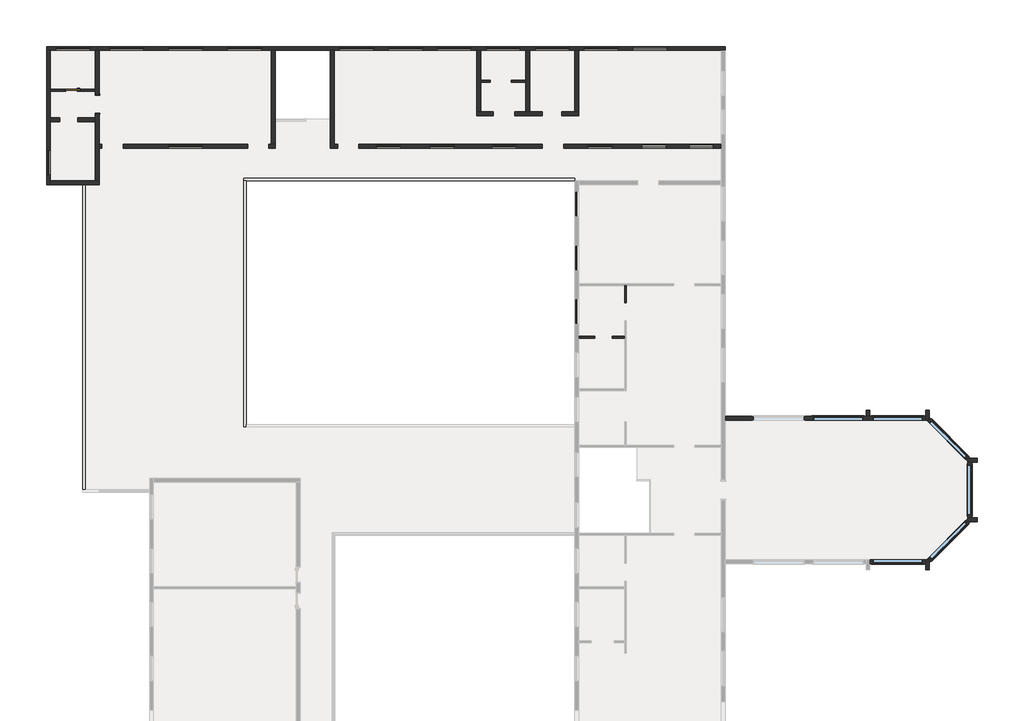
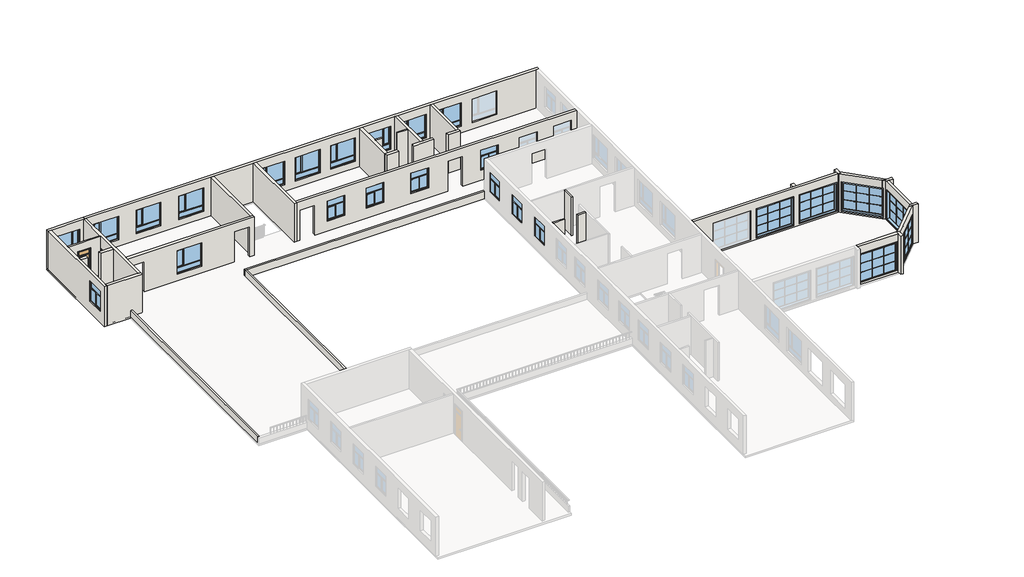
# One storey, part 2 of 4: 36 walls, 25 windows, 2 doors.
"""IFC4 building model written with IfcOpenShell, lengths in millimetres."""

from ifc_helpers import new_model, si_unit, frame, origin, place, context, project, spatial, polyline, outline, extrude, faceted_brep, transform, mapped, element, save
from components import door_b620a7e4, m1_00d12191, c1_07d47191, c2_05897f81, c2_cc7e28b3, c3_245fb3e4, c3_0cb914d8

model = new_model("IFC4")

# Units and contexts
model_context = context("Model", 3, world=origin())
ifc_project = project(units=[si_unit("LENGTHUNIT", "METRE", prefix="MILLI")], contexts=[model_context])

# Site, building, storey
site = spatial("IfcSite", under=ifc_project)
building = spatial("IfcBuilding", under=site)
storey = spatial("IfcBuildingStorey", under=building, Name="二层", Elevation=3600.0)

# Doors
placement = place(None, origin())
door_shape = door_b620a7e4(model_context)
element("IfcDoor", 1, ObjectType="门洞 : MD2(洞口）", at=placement, inside=storey, context=model_context, shape_type="MappedRepresentation", body=[
    mapped(door_shape, transform((-32270.2831392, 15166.2161615, 3600.0), x_axis=(0.0, -1.0, 0.0), y_axis=(1.0, 0.0, 0.0), z_axis=(0.0, 0.0, 1.0))),
])
m1_shape = m1_00d12191(model_context)
element("IfcDoor", 2, ObjectType="单嵌板木门 13 : M1", at=placement, inside=storey, context=model_context, shape_type="MappedRepresentation", body=[
    mapped(m1_shape, transform((-33770.2831392, 16016.2161615, 3600.0), x_axis=(-1.0, 0.0, 0.0), y_axis=(0.0, -1.0, 0.0), z_axis=(0.0, 0.0, 1.0))),
])

# Walls
element("IfcWall", 3, ObjectType="墙", at=placement, inside=storey, context=model_context, shape_type="Brep", body=[
    faceted_brep([(-32270.2831392, 18456.2161615, 3600.0), (-32150.2831392, 18456.2161615, 3600.0), (-21590.2831392, 18456.2161615, 3600.0), (-21350.2831392, 18456.2161615, 3600.0), (-17990.2831392, 18456.2161615, 3600.0), (-17750.2831392, 18456.2161615, 3600.0), (-8990.2831392, 18456.2161615, 3600.0), (-8750.2831392, 18456.2161615, 3600.0), (-5990.2831392, 18456.2161615, 3600.0), (-5750.2831392, 18456.2161615, 3600.0), (-2990.2831392, 18456.2161615, 3600.0), (-2750.2831392, 18456.2161615, 3600.0), (6009.7168608, 18456.2161615, 3600.0), (6249.7168608, 18456.2161615, 3600.0), (6249.7168608, 18456.2161615, 7050.0), (6009.7168608, 18456.2161615, 7050.0), (-17750.2831392, 18456.2161615, 7050.0), (-17990.2831392, 18456.2161615, 7050.0), (-32270.2831392, 18456.2161615, 7050.0), (-31520.2831392, 18456.2161615, 4200.0), (-31520.2831392, 18456.2161615, 6300.0), (-29420.2831392, 18456.2161615, 6300.0), (-29420.2831392, 18456.2161615, 4200.0), (-27920.2831392, 18456.2161615, 4200.0), (-27920.2831392, 18456.2161615, 6300.0), (-25820.2831392, 18456.2161615, 6300.0), (-25820.2831392, 18456.2161615, 4200.0), (-24290.2831392, 18456.2161615, 4200.0), (-24290.2831392, 18456.2161615, 6300.0), (-22190.2831392, 18456.2161615, 6300.0), (-22190.2831392, 18456.2161615, 4200.0), (-17420.2831392, 18456.2161615, 4200.0), (-17420.2831392, 18456.2161615, 6300.0), (-15320.2831392, 18456.2161615, 6300.0), (-15320.2831392, 18456.2161615, 4200.0), (-14420.2831392, 18456.2161615, 4200.0), (-14420.2831392, 18456.2161615, 6300.0), (-12320.2831392, 18456.2161615, 6300.0), (-12320.2831392, 18456.2161615, 4200.0), (-11420.2831392, 18456.2161615, 4200.0), (-11420.2831392, 18456.2161615, 6300.0), (-9320.2831392, 18456.2161615, 6300.0), (-9320.2831392, 18456.2161615, 4200.0), (-6320.2831392, 18456.2161615, 6300.0), (-6320.2831392, 18456.2161615, 4200.0), (-8420.2831392, 18456.2161615, 4200.0), (-8420.2831392, 18456.2161615, 6300.0), (-5420.2831392, 18456.2161615, 4200.0), (-5420.2831392, 18456.2161615, 6300.0), (-3320.2831392, 18456.2161615, 6300.0), (-3320.2831392, 18456.2161615, 4200.0), (-2420.2831392, 18456.2161615, 4200.0), (-2420.2831392, 18456.2161615, 6300.0), (-320.2831392, 18456.2161615, 6300.0), (-320.2831392, 18456.2161615, 4200.0), (579.7168608, 18456.2161615, 4200.0), (579.7168608, 18456.2161615, 6300.0), (2679.7168608, 18456.2161615, 6300.0), (2679.7168608, 18456.2161615, 4200.0), (6249.7168608, 18696.2161615, 3600.0), (-32270.2831392, 18696.2161615, 3600.0), (-32270.2831392, 18696.2161615, 7050.0), (6249.7168608, 18696.2161615, 7050.0), (-31520.2831392, 18696.2161615, 6300.0), (-31520.2831392, 18696.2161615, 4200.0), (-29420.2831392, 18696.2161615, 4200.0), (-29420.2831392, 18696.2161615, 6300.0), (-27920.2831392, 18696.2161615, 6300.0), (-27920.2831392, 18696.2161615, 4200.0), (-25820.2831392, 18696.2161615, 4200.0), (-25820.2831392, 18696.2161615, 6300.0), (-24290.2831392, 18696.2161615, 6300.0), (-24290.2831392, 18696.2161615, 4200.0), (-22190.2831392, 18696.2161615, 4200.0), (-22190.2831392, 18696.2161615, 6300.0), (-17420.2831392, 18696.2161615, 6300.0), (-17420.2831392, 18696.2161615, 4200.0), (-15320.2831392, 18696.2161615, 4200.0), (-15320.2831392, 18696.2161615, 6300.0), (-14420.2831392, 18696.2161615, 6300.0), (-14420.2831392, 18696.2161615, 4200.0), (-12320.2831392, 18696.2161615, 4200.0), (-12320.2831392, 18696.2161615, 6300.0), (-11420.2831392, 18696.2161615, 6300.0), (-11420.2831392, 18696.2161615, 4200.0), (-9320.2831392, 18696.2161615, 4200.0), (-9320.2831392, 18696.2161615, 6300.0), (-6320.2831392, 18696.2161615, 4200.0), (-6320.2831392, 18696.2161615, 6300.0), (-8420.2831392, 18696.2161615, 6300.0), (-8420.2831392, 18696.2161615, 4200.0), (-5420.2831392, 18696.2161615, 6300.0), (-5420.2831392, 18696.2161615, 4200.0), (-3320.2831392, 18696.2161615, 4200.0), (-3320.2831392, 18696.2161615, 6300.0), (-2420.2831392, 18696.2161615, 6300.0), (-2420.2831392, 18696.2161615, 4200.0), (-320.2831392, 18696.2161615, 4200.0), (-320.2831392, 18696.2161615, 6300.0), (579.7168608, 18696.2161615, 6300.0), (579.7168608, 18696.2161615, 4200.0), (2679.7168608, 18696.2161615, 4200.0), (2679.7168608, 18696.2161615, 6300.0)], [[[0, 1, 2, 3, 4, 5, 6, 7, 8, 9, 10, 11, 12, 13, 14, 15, 16, 17, 18], [19, 20, 21, 22], [23, 24, 25, 26], [27, 28, 29, 30], [31, 32, 33, 34], [35, 36, 37, 38], [39, 40, 41, 42], [43, 44, 45, 46], [47, 48, 49, 50], [51, 52, 53, 54], [55, 56, 57, 58]], [[59, 60, 61, 62], [63, 64, 65, 66], [67, 68, 69, 70], [71, 72, 73, 74], [75, 76, 77, 78], [79, 80, 81, 82], [83, 84, 85, 86], [87, 88, 89, 90], [91, 92, 93, 94], [95, 96, 97, 98], [99, 100, 101, 102]], [[13, 12, 11, 10, 9, 8, 7, 6, 5, 4, 3, 2, 1, 0, 60, 59]], [[60, 0, 18, 61]], [[20, 19, 64, 63]], [[21, 20, 63, 66]], [[22, 21, 66, 65]], [[19, 22, 65, 64]], [[24, 23, 68, 67]], [[25, 24, 67, 70]], [[26, 25, 70, 69]], [[23, 26, 69, 68]], [[28, 27, 72, 71]], [[29, 28, 71, 74]], [[30, 29, 74, 73]], [[27, 30, 73, 72]], [[32, 31, 76, 75]], [[33, 32, 75, 78]], [[34, 33, 78, 77]], [[31, 34, 77, 76]], [[36, 35, 80, 79]], [[37, 36, 79, 82]], [[38, 37, 82, 81]], [[35, 38, 81, 80]], [[40, 39, 84, 83]], [[41, 40, 83, 86]], [[42, 41, 86, 85]], [[39, 42, 85, 84]], [[88, 87, 44, 43]], [[89, 88, 43, 46]], [[90, 89, 46, 45]], [[87, 90, 45, 44]], [[48, 47, 92, 91]], [[49, 48, 91, 94]], [[50, 49, 94, 93]], [[47, 50, 93, 92]], [[52, 51, 96, 95]], [[53, 52, 95, 98]], [[54, 53, 98, 97]], [[51, 54, 97, 96]], [[56, 55, 100, 99]], [[57, 56, 99, 102]], [[58, 57, 102, 101]], [[55, 58, 101, 100]], [[13, 59, 62, 14]], [[18, 17, 16, 15, 14, 62, 61]]]),
])
element("IfcWall", 4, ObjectType="墙", at=placement, inside=storey, context=model_context, shape_type="Brep", body=[
    faceted_brep([(18541.7168608, -4223.7838385, 3600.0), (18541.7168608, -4223.7838385, 7050.0), (6249.7168608, -4223.7838385, 7050.0), (6249.7168608, -4223.7838385, 3600.0), (15057.4224883, -4223.7838385, 3600.0), (18374.7168608, -4223.7838385, 6300.0), (18374.7168608, -4223.7838385, 3800.0), (15294.7168608, -4223.7838385, 3800.0), (15294.7168608, -4223.7838385, 6300.0), (14720.7168608, -4223.7838385, 6300.0), (14720.7168608, -4223.7838385, 3800.0), (11640.7168608, -4223.7838385, 3800.0), (11640.7168608, -4223.7838385, 6300.0), (11066.7168608, -4223.7838385, 3800.0), (7986.7168608, -4223.7838385, 3800.0), (7986.7168608, -4223.7838385, 6300.0), (11066.7168608, -4223.7838385, 6300.0), (18541.7168608, -3983.7838385, 3450.0), (15127.7168608, -3983.7838385, 3450.0), (14887.7168608, -3983.7838385, 3450.0), (6249.7168608, -3983.7838385, 3450.0), (6249.7168608, -3983.7838385, 7050.0), (14887.7168608, -3983.7838385, 7050.0), (15127.7168608, -3983.7838385, 7050.0), (18541.7168608, -3983.7838385, 7050.0), (18541.7168608, -3983.7838385, 3600.0), (18374.7168608, -3983.7838385, 3800.0), (18374.7168608, -3983.7838385, 6300.0), (15294.7168608, -3983.7838385, 6300.0), (15294.7168608, -3983.7838385, 3800.0), (14720.7168608, -3983.7838385, 3800.0), (14720.7168608, -3983.7838385, 6300.0), (11640.7168608, -3983.7838385, 6300.0), (11640.7168608, -3983.7838385, 3800.0), (7986.7168608, -3983.7838385, 3800.0), (11066.7168608, -3983.7838385, 3800.0), (11066.7168608, -3983.7838385, 6300.0), (7986.7168608, -3983.7838385, 6300.0), (18541.7168608, -3988.7838385, 3450.0), (6249.7168608, -3988.7838385, 3450.0), (18541.7168608, -3988.7838385, 3600.0), (18541.7168608, -4153.4894659, 3600.0), (6249.7168608, -3988.7838385, 3600.0)], [[[0, 1, 2, 3, 4], [5, 6, 7, 8], [9, 10, 11, 12], [13, 14, 15, 16]], [[17, 18, 19, 20, 21, 22, 23, 24, 25], [26, 27, 28, 29], [30, 31, 32, 33], [34, 35, 36, 37]], [[20, 19, 18, 17, 38, 39]], [[6, 5, 27, 26]], [[7, 6, 26, 29]], [[8, 7, 29, 28]], [[5, 8, 28, 27]], [[17, 25, 40, 38]], [[1, 0, 41, 40, 25, 24]], [[10, 9, 31, 30]], [[11, 10, 30, 33]], [[12, 11, 33, 32]], [[9, 12, 32, 31]], [[16, 36, 35, 13]], [[13, 35, 34, 14]], [[14, 34, 37, 15]], [[36, 16, 15, 37]], [[21, 20, 39, 42, 3, 2]], [[2, 1, 24, 23, 22, 21]], [[42, 40, 41, 0, 4, 3]], [[40, 42, 39, 38]]]),
])
element("IfcWall", 5, ObjectType="墙", at=placement, inside=storey, context=model_context, shape_type="Brep", body=[
    faceted_brep([(18612.0112333, -4223.7838385, 3600.0), (20955.0112333, -6566.7838385, 3600.0), (20955.0112333, -6566.7838385, 3800.0), (18779.0355148, -4390.8081199, 3800.0), (18779.0355148, -4390.8081199, 6300.0), (20955.0112333, -6566.7838385, 6300.0), (20955.0112333, -6566.7838385, 7050.0), (18612.0112333, -4223.7838385, 7050.0), (21294.4224883, -6566.7838385, 3600.0), (18781.7168608, -4054.078211, 3600.0), (18781.7168608, -4054.078211, 7050.0), (21294.4224883, -6566.7838385, 7050.0), (18948.7411423, -4221.1024925, 6300.0), (18948.7411423, -4221.1024925, 3800.0), (21126.6300284, -6398.9913785, 3800.0), (21126.6300284, -6398.9913785, 6300.0), (18781.7168608, -4223.7838385, 3600.0), (20958.8375684, -6566.7838385, 6300.0), (20958.8375684, -6566.7838385, 3800.0), (18781.7168608, -4223.7838385, 7050.0)], [[[0, 1, 2, 3, 4, 5, 6, 7]], [[8, 9, 10, 11], [12, 13, 14, 15]], [[1, 0, 16, 9, 8]], [[1, 8, 11, 6, 5, 17, 18, 2]], [[12, 4, 3, 13]], [[13, 3, 2, 18, 14]], [[14, 18, 17, 15]], [[4, 12, 15, 17, 5]], [[9, 16, 19, 10]], [[16, 0, 7, 19]], [[7, 6, 11, 10, 19]]]),
])
element("IfcWall", 6, ObjectType="墙", at=placement, inside=storey, context=model_context, shape_type="Brep", body=[
    faceted_brep([(21195.0112333, -6806.7838385, 3600.0), (21364.7168608, -6806.7838385, 3600.0), (21724.7168608, -6806.7838385, 3600.0), (21724.7168608, -6806.7838385, 7050.0), (21364.7168608, -6806.7838385, 7050.0), (21195.0112333, -6806.7838385, 7050.0), (21724.7168608, -6566.7838385, 3600.0), (21294.4224883, -6566.7838385, 3600.0), (20955.0112333, -6566.7838385, 3600.0), (20955.0112333, -6566.7838385, 3800.0), (20958.8375684, -6566.7838385, 3800.0), (20958.8375684, -6566.7838385, 6300.0), (20955.0112333, -6566.7838385, 6300.0), (20955.0112333, -6566.7838385, 7050.0), (21294.4224883, -6566.7838385, 7050.0), (21724.7168608, -6566.7838385, 7050.0), (21124.7168608, -6736.4894659, 3600.0), (21124.7168608, -6736.4894659, 7050.0), (20956.9244009, -6568.697006, 6300.0), (20956.9244009, -6568.697006, 3800.0)], [[[0, 1, 2, 3, 4, 5]], [[6, 7, 8, 9, 10, 11, 12, 13, 14, 15]], [[2, 1, 0, 16, 8, 7, 6]], [[2, 6, 15, 3]], [[8, 16, 0, 5, 17, 13, 12, 18, 19, 9]], [[19, 10, 9]], [[10, 19, 18, 11]], [[11, 18, 12]], [[5, 4, 3, 15, 14, 13, 17]]]),
])
element("IfcWall", 7, ObjectType="墙", at=placement, inside=storey, context=model_context, shape_type="SweptSolid", body=[
    extrude(outline(polyline([(15127.7168608, -3623.7838385), (15127.7168608, -3983.7838385), (14887.7168608, -3983.7838385), (14887.7168608, -3623.7838385), (15127.7168608, -3623.7838385)])), frame((0.0, 0.0, 3600.0), z_axis=(0.0, 0.0, 1.0), x_axis=(1.0, 0.0, 0.0)), (0.0, 0.0, 1.0), 3450.0),
])
element("IfcWall", 8, ObjectType="墙", at=placement, inside=storey, context=model_context, shape_type="Brep", body=[
    faceted_brep([(18781.7168608, -4223.7838385, 3600.0), (18781.7168608, -4054.078211, 3600.0), (18781.7168608, -3623.7838385, 3600.0), (18781.7168608, -3623.7838385, 7050.0), (18781.7168608, -4223.7838385, 7050.0), (18541.7168608, -3623.7838385, 3600.0), (18541.7168608, -4153.4894659, 3600.0), (18541.7168608, -4223.7838385, 3600.0), (18541.7168608, -4223.7838385, 7050.0), (18541.7168608, -3983.7838385, 7050.0), (18541.7168608, -3623.7838385, 7050.0), (18612.0112333, -4223.7838385, 3600.0)], [[[0, 1, 2, 3, 4]], [[5, 6, 7, 8, 9, 10]], [[2, 1, 0, 11, 7, 6, 5]], [[2, 5, 10, 3]], [[7, 11, 0, 4, 8]], [[4, 3, 10, 9, 8]]]),
])
element("IfcWall", 9, ObjectType="墙", at=placement, inside=storey, context=model_context, shape_type="Brep", body=[
    faceted_brep([(15127.7168608, -13043.7838385, 3600.0), (18541.7168608, -13043.7838385, 3600.0), (18541.7168608, -13043.7838385, 7050.0), (15127.7168608, -13043.7838385, 7050.0), (18374.7168608, -13043.7838385, 6300.0), (18374.7168608, -13043.7838385, 3800.0), (15294.7168608, -13043.7838385, 3800.0), (15294.7168608, -13043.7838385, 6300.0), (18541.7168608, -12803.7838385, 3600.0), (15127.7168608, -12803.7838385, 3600.0), (15127.7168608, -12803.7838385, 7050.0), (18541.7168608, -12803.7838385, 7050.0), (18374.7168608, -12803.7838385, 3800.0), (18374.7168608, -12803.7838385, 6300.0), (15294.7168608, -12803.7838385, 6300.0), (15294.7168608, -12803.7838385, 3800.0), (15127.7168608, -12874.078211, 3600.0)], [[[0, 1, 2, 3], [4, 5, 6, 7]], [[8, 9, 10, 11], [12, 13, 14, 15]], [[1, 0, 16, 9, 8]], [[5, 4, 13, 12]], [[6, 5, 12, 15]], [[7, 6, 15, 14]], [[4, 7, 14, 13]], [[9, 16, 0, 3, 10]], [[1, 8, 11, 2]], [[3, 2, 11, 10]]]),
])
element("IfcWall", 10, ObjectType="墙", at=placement, inside=storey, context=model_context, shape_type="Brep", body=[
    faceted_brep([(18781.7168608, -12973.4894659, 3600.0), (21294.4224883, -10460.7838385, 3600.0), (21294.4224883, -10460.7838385, 7050.0), (18781.7168608, -12973.4894659, 7050.0), (18948.7411423, -12806.4651844, 3800.0), (18948.7411423, -12806.4651844, 6300.0), (21126.6300284, -10628.5762984, 6300.0), (21126.6300284, -10628.5762984, 3800.0), (20955.0112333, -10460.7838385, 3600.0), (18612.0112333, -12803.7838385, 3600.0), (18612.0112333, -12803.7838385, 7050.0), (20955.0112333, -10460.7838385, 7050.0), (20955.0112333, -10460.7838385, 6300.0), (18779.0355148, -12636.759557, 6300.0), (18779.0355148, -12636.759557, 3800.0), (20955.0112333, -10460.7838385, 3800.0), (18781.7168608, -12803.7838385, 3600.0), (20958.8375684, -10460.7838385, 3800.0), (20958.8375684, -10460.7838385, 6300.0), (18781.7168608, -12803.7838385, 7050.0)], [[[0, 1, 2, 3], [4, 5, 6, 7]], [[8, 9, 10, 11, 12, 13, 14, 15]], [[1, 0, 16, 9, 8]], [[1, 8, 15, 17, 18, 12, 11, 2]], [[13, 5, 4, 14]], [[14, 4, 7, 17, 15]], [[17, 7, 6, 18]], [[5, 13, 12, 18, 6]], [[9, 16, 19, 10]], [[16, 0, 3, 19]], [[3, 2, 11, 10, 19]]]),
])
element("IfcWall", 11, ObjectType="墙", at=placement, inside=storey, context=model_context, shape_type="Brep", body=[
    faceted_brep([(20955.0112333, -10460.7838385, 3600.0), (21294.4224883, -10460.7838385, 3600.0), (21724.7168608, -10460.7838385, 3600.0), (21724.7168608, -10460.7838385, 7050.0), (21294.4224883, -10460.7838385, 7050.0), (20955.0112333, -10460.7838385, 7050.0), (20955.0112333, -10460.7838385, 6300.0), (20958.8375684, -10460.7838385, 6300.0), (20958.8375684, -10460.7838385, 3800.0), (20955.0112333, -10460.7838385, 3800.0), (21724.7168608, -10220.7838385, 3600.0), (21364.7168608, -10220.7838385, 3600.0), (21195.0112333, -10220.7838385, 3600.0), (21195.0112333, -10220.7838385, 7050.0), (21364.7168608, -10220.7838385, 7050.0), (21724.7168608, -10220.7838385, 7050.0), (21124.7168608, -10291.078211, 3600.0), (20956.9244009, -10458.8706709, 3800.0), (20956.9244009, -10458.8706709, 6300.0), (21124.7168608, -10291.078211, 7050.0)], [[[0, 1, 2, 3, 4, 5, 6, 7, 8, 9]], [[10, 11, 12, 13, 14, 15]], [[2, 1, 0, 16, 12, 11, 10]], [[2, 10, 15, 3]], [[12, 16, 0, 9, 17, 18, 6, 5, 19, 13]], [[8, 17, 9]], [[17, 8, 7, 18]], [[18, 7, 6]], [[5, 4, 3, 15, 14, 13, 19]]]),
])
element("IfcWall", 12, ObjectType="墙", at=placement, inside=storey, context=model_context, shape_type="Brep", body=[
    faceted_brep([(18541.7168608, -12803.7838385, 3600.0), (18541.7168608, -13043.7838385, 3600.0), (18541.7168608, -13403.7838385, 3600.0), (18541.7168608, -13403.7838385, 7050.0), (18541.7168608, -13043.7838385, 7050.0), (18541.7168608, -12803.7838385, 7050.0), (18781.7168608, -13403.7838385, 3600.0), (18781.7168608, -12973.4894659, 3600.0), (18781.7168608, -12803.7838385, 3600.0), (18781.7168608, -12803.7838385, 7050.0), (18781.7168608, -12973.4894659, 7050.0), (18781.7168608, -13403.7838385, 7050.0), (18612.0112333, -12803.7838385, 3600.0), (18612.0112333, -12803.7838385, 7050.0)], [[[0, 1, 2, 3, 4, 5]], [[6, 7, 8, 9, 10, 11]], [[2, 1, 0, 12, 8, 7, 6]], [[2, 6, 11, 3]], [[8, 12, 0, 5, 13, 9]], [[5, 4, 3, 11, 10, 9, 13]]]),
])
element("IfcWall", 13, ObjectType="墙", at=placement, inside=storey, context=model_context, shape_type="Brep", body=[
    faceted_brep([(21124.7168608, -6736.4894659, 3600.0), (21124.7168608, -10291.078211, 3600.0), (21124.7168608, -10291.078211, 7050.0), (21124.7168608, -6736.4894659, 7050.0), (21124.7168608, -10053.7838385, 6300.0), (21124.7168608, -10053.7838385, 3800.0), (21124.7168608, -6973.7838385, 3800.0), (21124.7168608, -6973.7838385, 6300.0), (21364.7168608, -10220.7838385, 3600.0), (21364.7168608, -6806.7838385, 3600.0), (21364.7168608, -6806.7838385, 7050.0), (21364.7168608, -10220.7838385, 7050.0), (21364.7168608, -10053.7838385, 3800.0), (21364.7168608, -10053.7838385, 6300.0), (21364.7168608, -6973.7838385, 6300.0), (21364.7168608, -6973.7838385, 3800.0), (21195.0112333, -6806.7838385, 3600.0), (21195.0112333, -10220.7838385, 3600.0), (21195.0112333, -6806.7838385, 7050.0), (21195.0112333, -10220.7838385, 7050.0)], [[[0, 1, 2, 3], [4, 5, 6, 7]], [[8, 9, 10, 11], [12, 13, 14, 15]], [[1, 0, 16, 9, 8, 17]], [[16, 0, 3, 18]], [[9, 16, 18, 10]], [[1, 17, 19, 2]], [[17, 8, 11, 19]], [[5, 4, 13, 12]], [[6, 5, 12, 15]], [[7, 6, 15, 14]], [[4, 7, 14, 13]], [[3, 2, 19, 11, 10, 18]]]),
])
element("IfcWall", 14, ObjectType="墙", at=placement, inside=storey, context=model_context, shape_type="Brep", body=[
    faceted_brep([(-21750.2831392, 12456.2161615, 3600.0), (-21350.2831392, 12456.2161615, 3600.0), (-21350.2831392, 12456.2161615, 7050.0), (-32150.2831392, 12456.2161615, 7050.0), (-32150.2831392, 12456.2161615, 3600.0), (-31990.2831392, 12456.2161615, 3600.0), (-31990.2831392, 12456.2161615, 6300.0), (-30690.2831392, 12456.2161615, 6300.0), (-30690.2831392, 12456.2161615, 3600.0), (-23140.2831392, 12456.2161615, 3600.0), (-23050.2831392, 12456.2161615, 3600.0), (-23050.2831392, 12456.2161615, 6300.0), (-21750.2831392, 12456.2161615, 6300.0), (-27920.2831392, 12456.2161615, 4200.0), (-27920.2831392, 12456.2161615, 6300.0), (-25820.2831392, 12456.2161615, 6300.0), (-25820.2831392, 12456.2161615, 4200.0), (-21350.2831392, 12696.2161615, 3600.0), (-21590.2831392, 12696.2161615, 3600.0), (-21750.2831392, 12696.2161615, 3600.0), (-21750.2831392, 12696.2161615, 6300.0), (-23050.2831392, 12696.2161615, 6300.0), (-23050.2831392, 12696.2161615, 3600.0), (-23140.2831392, 12696.2161615, 3600.0), (-30690.2831392, 12696.2161615, 3600.0), (-30690.2831392, 12696.2161615, 6300.0), (-31990.2831392, 12696.2161615, 6300.0), (-31990.2831392, 12696.2161615, 3600.0), (-32150.2831392, 12696.2161615, 3600.0), (-32150.2831392, 12696.2161615, 7050.0), (-21590.2831392, 12696.2161615, 7050.0), (-21350.2831392, 12696.2161615, 7050.0), (-27920.2831392, 12696.2161615, 6300.0), (-27920.2831392, 12696.2161615, 4200.0), (-25820.2831392, 12696.2161615, 4200.0), (-25820.2831392, 12696.2161615, 6300.0)], [[[0, 1, 2, 3, 4, 5, 6, 7, 8, 9, 10, 11, 12], [13, 14, 15, 16]], [[17, 18, 19, 20, 21, 22, 23, 24, 25, 26, 27, 28, 29, 30, 31], [32, 33, 34, 35]], [[22, 10, 9, 8, 24, 23]], [[17, 1, 0, 19, 18]], [[4, 28, 27, 5]], [[1, 17, 31, 2]], [[12, 20, 19, 0]], [[20, 12, 11, 21]], [[21, 11, 10, 22]], [[28, 4, 3, 29]], [[14, 13, 33, 32]], [[15, 14, 32, 35]], [[16, 15, 35, 34]], [[13, 16, 34, 33]], [[26, 6, 5, 27]], [[6, 26, 25, 7]], [[7, 25, 24, 8]], [[3, 2, 31, 30, 29]]]),
])
element("IfcWall", 15, ObjectType="墙", at=placement, inside=storey, context=model_context, shape_type="Brep", body=[
    faceted_brep([(-21590.2831392, 18456.2161615, 3600.0), (-21590.2831392, 12696.2161615, 3600.0), (-21590.2831392, 12696.2161615, 7050.0), (-21590.2831392, 18456.2161615, 7050.0), (-21350.2831392, 12696.2161615, 3600.0), (-21350.2831392, 14256.2161615, 3600.0), (-21350.2831392, 18456.2161615, 3600.0), (-21350.2831392, 18456.2161615, 7050.0), (-21350.2831392, 12696.2161615, 7050.0)], [[[0, 1, 2, 3]], [[4, 5, 6, 7, 8]], [[1, 0, 6, 5, 4]], [[6, 0, 3, 7]], [[1, 4, 8, 2]], [[3, 2, 8, 7]]]),
])
element("IfcWall", 16, ObjectType="墙", at=placement, inside=storey, context=model_context, shape_type="Brep", body=[
    faceted_brep([(-17990.2831392, 18456.2161615, 3600.0), (-17990.2831392, 12456.2161615, 3600.0), (-17990.2831392, 12456.2161615, 7050.0), (-17990.2831392, 18456.2161615, 7050.0), (-17750.2831392, 12456.2161615, 3600.0), (-17750.2831392, 12696.2161615, 3600.0), (-17750.2831392, 18456.2161615, 3600.0), (-17750.2831392, 18456.2161615, 7050.0), (-17750.2831392, 12456.2161615, 7050.0)], [[[0, 1, 2, 3]], [[4, 5, 6, 7, 8]], [[1, 0, 6, 5, 4]], [[6, 0, 3, 7]], [[1, 4, 8, 2]], [[3, 2, 8, 7]]]),
])
element("IfcWall", 17, ObjectType="墙", at=placement, inside=storey, context=model_context, shape_type="Brep", body=[
    faceted_brep([(-2750.2831392, 14696.2161615, 3600.0), (-2990.2831392, 14696.2161615, 3600.0), (-3770.2831392, 14696.2161615, 3600.0), (-3770.2831392, 14696.2161615, 7050.0), (-2990.2831392, 14696.2161615, 7050.0), (-2750.2831392, 14696.2161615, 7050.0), (-3770.2831392, 14456.2161615, 3600.0), (-2750.2831392, 14456.2161615, 3600.0), (-2750.2831392, 14456.2161615, 7050.0), (-3770.2831392, 14456.2161615, 7050.0)], [[[0, 1, 2, 3, 4, 5]], [[6, 7, 8, 9]], [[2, 1, 0, 7, 6]], [[2, 6, 9, 3]], [[7, 0, 5, 8]], [[5, 4, 3, 9, 8]]]),
])
element("IfcWall", 18, ObjectType="墙", at=placement, inside=storey, context=model_context, shape_type="Brep", body=[
    faceted_brep([(-8750.2831392, 14696.2161615, 3600.0), (-8750.2831392, 16516.2161615, 3600.0), (-8750.2831392, 16636.2161615, 3600.0), (-8750.2831392, 18456.2161615, 3600.0), (-8750.2831392, 18456.2161615, 7050.0), (-8750.2831392, 16636.2161615, 7050.0), (-8750.2831392, 16516.2161615, 7050.0), (-8750.2831392, 14696.2161615, 7050.0), (-8990.2831392, 18456.2161615, 3600.0), (-8990.2831392, 14696.2161615, 3600.0), (-8990.2831392, 14696.2161615, 7050.0), (-8990.2831392, 18456.2161615, 7050.0)], [[[0, 1, 2, 3, 4, 5, 6, 7]], [[8, 9, 10, 11]], [[3, 2, 1, 0, 9, 8]], [[3, 8, 11, 4]], [[9, 0, 7, 10]], [[7, 6, 5, 4, 11, 10]]]),
])
element("IfcWall", 19, ObjectType="墙", at=placement, inside=storey, context=model_context, shape_type="Brep", body=[
    faceted_brep([(-5750.2831392, 14696.2161615, 3600.0), (-5750.2831392, 18456.2161615, 3600.0), (-5750.2831392, 18456.2161615, 7050.0), (-5750.2831392, 14696.2161615, 7050.0), (-5990.2831392, 18456.2161615, 3600.0), (-5990.2831392, 16636.2161615, 3600.0), (-5990.2831392, 16516.2161615, 3600.0), (-5990.2831392, 14696.2161615, 3600.0), (-5990.2831392, 14696.2161615, 7050.0), (-5990.2831392, 18456.2161615, 7050.0)], [[[0, 1, 2, 3]], [[4, 5, 6, 7, 8, 9]], [[1, 0, 7, 6, 5, 4]], [[1, 4, 9, 2]], [[7, 0, 3, 8]], [[3, 2, 9, 8]]]),
])
element("IfcWall", 20, ObjectType="隔墙", at=placement, inside=storey, context=model_context, shape_type="SweptSolid", body=[
    extrude(outline(polyline([(-8170.2831392, 16516.2161615), (-8750.2831392, 16516.2161615), (-8750.2831392, 16636.2161615), (-8170.2831392, 16636.2161615), (-8170.2831392, 16516.2161615)])), frame((0.0, 0.0, 3600.0), z_axis=(0.0, 0.0, 1.0), x_axis=(1.0, 0.0, 0.0)), (0.0, 0.0, 1.0), 3450.0),
])
element("IfcWall", 21, ObjectType="隔墙", at=placement, inside=storey, context=model_context, shape_type="SweptSolid", body=[
    extrude(outline(polyline([(69.7168608, 2986.2161615), (69.7168608, 4026.2161615), (189.7168608, 4026.2161615), (189.7168608, 2986.2161615), (69.7168608, 2986.2161615)])), frame((0.0, 0.0, 3600.0), z_axis=(0.0, 0.0, 1.0), x_axis=(1.0, 0.0, 0.0)), (0.0, 0.0, 1.0), 3450.0),
])
element("IfcWall", 22, ObjectType="隔墙", at=placement, inside=storey, context=model_context, shape_type="SweptSolid", body=[
    extrude(outline(polyline([(-1770.2831392, 796.2161615), (-2750.2831392, 796.2161615), (-2750.2831392, 916.2161615), (-1770.2831392, 916.2161615), (-1770.2831392, 796.2161615)])), frame((0.0, 0.0, 3600.0), z_axis=(0.0, 0.0, 1.0), x_axis=(1.0, 0.0, 0.0)), (0.0, 0.0, 1.0), 3450.0),
])
element("IfcWall", 23, ObjectType="墙", at=placement, inside=storey, context=model_context, shape_type="SweptSolid", body=[
    extrude(outline(polyline([(3600.0, -3670.2831392), (3600.0, 6009.7168608), (7050.0, 6009.7168608), (7050.0, -17750.2831392), (3600.0, -17750.2831392), (3600.0, -17520.2831392), (6300.0, -17520.2831392), (6300.0, -16220.2831392), (3600.0, -16220.2831392), (3600.0, -4970.2831392), (6300.0, -4970.2831392), (6300.0, -3670.2831392), (3600.0, -3670.2831392)]), holes=[polyline([(4500.0, 5529.7168608), (4500.0, 4029.7168608), (6300.0, 4029.7168608), (6300.0, 5529.7168608), (4500.0, 5529.7168608)]), polyline([(4500.0, 2629.7168608), (4500.0, 1129.7168608), (6300.0, 1129.7168608), (6300.0, 2629.7168608), (4500.0, 2629.7168608)]), polyline([(4500.0, -670.2831392), (4500.0, -2170.2831392), (6300.0, -2170.2831392), (6300.0, -670.2831392), (4500.0, -670.2831392)]), polyline([(4500.0, -6570.2831392), (4500.0, -8070.2831392), (6300.0, -8070.2831392), (6300.0, -6570.2831392), (4500.0, -6570.2831392)]), polyline([(4500.0, -10370.2831392), (4500.0, -11870.2831392), (6300.0, -11870.2831392), (6300.0, -10370.2831392), (4500.0, -10370.2831392)]), polyline([(4500.0, -13670.2831392), (4500.0, -15170.2831392), (6300.0, -15170.2831392), (6300.0, -13670.2831392), (4500.0, -13670.2831392)])]), frame((0.0, 12456.2161615, 0.0), z_axis=(0.0, 1.0, 0.0), x_axis=(0.0, 0.0, 1.0)), (0.0, 0.0, 1.0), 240.0),
])
element("IfcWall", 24, ObjectType="隔墙", at=placement, inside=storey, context=model_context, shape_type="SweptSolid", body=[
    extrude(outline(polyline([(-5990.2831392, 16516.2161615), (-6870.2831392, 16516.2161615), (-6870.2831392, 16636.2161615), (-5990.2831392, 16636.2161615), (-5990.2831392, 16516.2161615)])), frame((0.0, 0.0, 3600.0), z_axis=(0.0, 0.0, 1.0), x_axis=(1.0, 0.0, 0.0)), (0.0, 0.0, 1.0), 3450.0),
])
element("IfcWall", 25, ObjectType="墙", at=placement, inside=storey, context=model_context, shape_type="Brep", body=[
    faceted_brep([(-7970.2831392, 14696.2161615, 3600.0), (-8750.2831392, 14696.2161615, 3600.0), (-8990.2831392, 14696.2161615, 3600.0), (-8990.2831392, 14696.2161615, 7050.0), (-8750.2831392, 14696.2161615, 7050.0), (-7970.2831392, 14696.2161615, 7050.0), (-8990.2831392, 14456.2161615, 3600.0), (-7970.2831392, 14456.2161615, 3600.0), (-7970.2831392, 14456.2161615, 7050.0), (-8990.2831392, 14456.2161615, 7050.0)], [[[0, 1, 2, 3, 4, 5]], [[6, 7, 8, 9]], [[2, 1, 0, 7, 6]], [[7, 0, 5, 8]], [[2, 6, 9, 3]], [[5, 4, 3, 9, 8]]]),
])
element("IfcWall", 26, ObjectType="墙", at=placement, inside=storey, context=model_context, shape_type="Brep", body=[
    faceted_brep([(-4970.2831392, 14696.2161615, 3600.0), (-5750.2831392, 14696.2161615, 3600.0), (-5990.2831392, 14696.2161615, 3600.0), (-6670.2831392, 14696.2161615, 3600.0), (-6670.2831392, 14696.2161615, 7050.0), (-4970.2831392, 14696.2161615, 7050.0), (-6670.2831392, 14456.2161615, 3600.0), (-4970.2831392, 14456.2161615, 3600.0), (-4970.2831392, 14456.2161615, 7050.0), (-6670.2831392, 14456.2161615, 7050.0)], [[[0, 1, 2, 3, 4, 5]], [[6, 7, 8, 9]], [[3, 2, 1, 0, 7, 6]], [[3, 6, 9, 4]], [[7, 0, 5, 8]], [[5, 4, 9, 8]]]),
])
element("IfcWall", 27, ObjectType="隔墙", at=placement, inside=storey, context=model_context, shape_type="SweptSolid", body=[
    extrude(outline(polyline([(69.7168608, 796.2161615), (-670.2831392, 796.2161615), (-670.2831392, 916.2161615), (69.7168608, 916.2161615), (69.7168608, 796.2161615)])), frame((0.0, 0.0, 3600.0), z_axis=(0.0, 0.0, 1.0), x_axis=(1.0, 0.0, 0.0)), (0.0, 0.0, 1.0), 3450.0),
])
element("IfcWall", 28, ObjectType="墙", at=placement, inside=storey, context=model_context, shape_type="SweptSolid", body=[
    extrude(outline(polyline([(-2750.2831392, 18456.2161615), (-2750.2831392, 14696.2161615), (-2990.2831392, 14696.2161615), (-2990.2831392, 18456.2161615), (-2750.2831392, 18456.2161615)])), frame((0.0, 0.0, 3600.0), z_axis=(0.0, 0.0, 1.0), x_axis=(1.0, 0.0, 0.0)), (0.0, 0.0, 1.0), 3450.0),
])
element("IfcWall", 29, ObjectType="墙", at=placement, inside=storey, context=model_context, shape_type="Brep", body=[
    faceted_brep([(-32390.2831392, 18696.2161615, 3450.0), (-35390.2831392, 18696.2161615, 3450.0), (-35390.2831392, 18696.2161615, 7050.0), (-32270.2831392, 18696.2161615, 7050.0), (-32270.2831392, 18696.2161615, 3600.0), (-32390.2831392, 18696.2161615, 3600.0), (-32720.2831392, 18696.2161615, 4200.0), (-32720.2831392, 18696.2161615, 6300.0), (-34820.2831392, 18696.2161615, 6300.0), (-34820.2831392, 18696.2161615, 4200.0), (-35390.2831392, 18456.2161615, 3450.0), (-35150.2831392, 18456.2161615, 3450.0), (-32390.2831392, 18456.2161615, 3450.0), (-32390.2831392, 18456.2161615, 3600.0), (-32270.2831392, 18456.2161615, 3600.0), (-32270.2831392, 18456.2161615, 7050.0), (-32390.2831392, 18456.2161615, 7050.0), (-35390.2831392, 18456.2161615, 7050.0), (-32720.2831392, 18456.2161615, 6300.0), (-32720.2831392, 18456.2161615, 4200.0), (-34820.2831392, 18456.2161615, 4200.0), (-34820.2831392, 18456.2161615, 6300.0)], [[[0, 1, 2, 3, 4, 5], [6, 7, 8, 9]], [[10, 11, 12, 13, 14, 15, 16, 17], [18, 19, 20, 21]], [[1, 0, 12, 11, 10]], [[1, 10, 17, 2]], [[7, 6, 19, 18]], [[8, 7, 18, 21]], [[9, 8, 21, 20]], [[6, 9, 20, 19]], [[14, 4, 3, 15]], [[4, 14, 13, 5]], [[12, 0, 5, 13]], [[3, 2, 17, 16, 15]]]),
])
element("IfcWall", 30, ObjectType="墙", at=placement, inside=storey, context=model_context, shape_type="Brep", body=[
    faceted_brep([(-35390.2831392, 18456.2161615, 3450.0), (-35390.2831392, 10226.2161615, 3450.0), (-35390.2831392, 10226.2161615, 7050.0), (-35390.2831392, 18456.2161615, 7050.0), (-35390.2831392, 10826.2161615, 6300.0), (-35390.2831392, 10826.2161615, 4500.0), (-35390.2831392, 12326.2161615, 4500.0), (-35390.2831392, 12326.2161615, 6300.0), (-35150.2831392, 10226.2161615, 7050.0), (-35150.2831392, 10226.2161615, 3450.0), (-35150.2831392, 10231.2161615, 3450.0), (-35150.2831392, 10231.2161615, 3600.0), (-35150.2831392, 10466.2161615, 3600.0), (-35150.2831392, 14076.2161615, 3600.0), (-35150.2831392, 14316.2161615, 3600.0), (-35150.2831392, 15956.2161615, 3600.0), (-35150.2831392, 16076.2161615, 3600.0), (-35150.2831392, 18456.2161615, 3600.0), (-35150.2831392, 18456.2161615, 7050.0), (-35150.2831392, 16076.2161615, 7050.0), (-35150.2831392, 15956.2161615, 7050.0), (-35150.2831392, 14316.2161615, 7050.0), (-35150.2831392, 14076.2161615, 7050.0), (-35150.2831392, 10466.2161615, 7050.0), (-35150.2831392, 10826.2161615, 4500.0), (-35150.2831392, 10826.2161615, 6300.0), (-35150.2831392, 12326.2161615, 6300.0), (-35150.2831392, 12326.2161615, 4500.0), (-35385.2831392, 18456.2161615, 3450.0), (-35385.2831392, 10231.2161615, 3450.0), (-35385.2831392, 18456.2161615, 3600.0), (-35385.2831392, 10231.2161615, 3600.0)], [[[0, 1, 2, 3], [4, 5, 6, 7]], [[8, 9, 10, 11, 12, 13, 14, 15, 16, 17, 18, 19, 20, 21, 22, 23], [24, 25, 26, 27]], [[1, 0, 28, 29, 10, 9]], [[0, 3, 18, 17, 30, 28]], [[1, 9, 8, 2]], [[3, 2, 8, 23, 22, 21, 20, 19, 18]], [[25, 24, 5, 4]], [[26, 25, 4, 7]], [[27, 26, 7, 6]], [[24, 27, 6, 5]], [[11, 31, 30, 17, 16, 15, 14, 13, 12]], [[31, 29, 28, 30]], [[29, 31, 11, 10]]]),
])
element("IfcWall", 31, ObjectType="墙", at=placement, inside=storey, context=model_context, shape_type="Brep", body=[
    faceted_brep([(-33170.2831392, 10226.2161615, 3600.0), (-32150.2831392, 10226.2161615, 3600.0), (-32150.2831392, 10226.2161615, 7050.0), (-35150.2831392, 10226.2161615, 7050.0), (-35150.2831392, 10226.2161615, 3450.0), (-33170.2831392, 10226.2161615, 3450.0), (-32150.2831392, 10466.2161615, 3600.0), (-32390.2831392, 10466.2161615, 3600.0), (-35150.2831392, 10466.2161615, 3600.0), (-35150.2831392, 10466.2161615, 7050.0), (-32390.2831392, 10466.2161615, 7050.0), (-32150.2831392, 10466.2161615, 7050.0), (-35150.2831392, 10231.2161615, 3450.0), (-33170.2831392, 10231.2161615, 3450.0), (-35150.2831392, 10231.2161615, 3600.0), (-33170.2831392, 10231.2161615, 3600.0)], [[[0, 1, 2, 3, 4, 5]], [[6, 7, 8, 9, 10, 11]], [[5, 4, 12, 13]], [[4, 3, 9, 8, 14, 12]], [[0, 15, 14, 8, 7, 6, 1]], [[1, 6, 11, 2]], [[3, 2, 11, 10, 9]], [[13, 15, 0, 5]], [[15, 13, 12, 14]]]),
])
element("IfcWall", 32, ObjectType="墙", at=placement, inside=storey, context=model_context, shape_type="Brep", body=[
    faceted_brep([(-32390.2831392, 14566.2161615, 3600.0), (-32390.2831392, 14316.2161615, 3600.0), (-32390.2831392, 14076.2161615, 3600.0), (-32390.2831392, 10466.2161615, 3600.0), (-32390.2831392, 10466.2161615, 7050.0), (-32390.2831392, 15956.2161615, 7050.0), (-32390.2831392, 16076.2161615, 7050.0), (-32390.2831392, 18456.2161615, 7050.0), (-32390.2831392, 18456.2161615, 3600.0), (-32390.2831392, 16076.2161615, 3600.0), (-32390.2831392, 15956.2161615, 3600.0), (-32390.2831392, 15766.2161615, 3600.0), (-32390.2831392, 15766.2161615, 6000.0), (-32390.2831392, 14566.2161615, 6000.0), (-32150.2831392, 10466.2161615, 3600.0), (-32150.2831392, 12456.2161615, 3600.0), (-32150.2831392, 12696.2161615, 3600.0), (-32150.2831392, 14566.2161615, 3600.0), (-32150.2831392, 14566.2161615, 6000.0), (-32150.2831392, 15766.2161615, 6000.0), (-32150.2831392, 15766.2161615, 3600.0), (-32150.2831392, 18456.2161615, 3600.0), (-32150.2831392, 18456.2161615, 7050.0), (-32150.2831392, 12696.2161615, 7050.0), (-32150.2831392, 12456.2161615, 7050.0), (-32150.2831392, 10466.2161615, 7050.0), (-32270.2831392, 18456.2161615, 3600.0), (-32270.2831392, 10466.2161615, 3600.0), (-32270.2831392, 18456.2161615, 7050.0)], [[[0, 1, 2, 3, 4, 5, 6, 7, 8, 9, 10, 11, 12, 13]], [[14, 15, 16, 17, 18, 19, 20, 21, 22, 23, 24, 25]], [[8, 26, 21, 20, 11, 10, 9]], [[14, 27, 3, 2, 1, 0, 17, 16, 15]], [[21, 26, 8, 7, 28, 22]], [[3, 27, 14, 25, 4]], [[13, 18, 17, 0]], [[18, 13, 12, 19]], [[19, 12, 11, 20]], [[7, 6, 5, 4, 25, 24, 23, 22, 28]]]),
])
element("IfcWall", 33, ObjectType="隔墙", at=placement, inside=storey, context=model_context, shape_type="SweptSolid", body=[
    extrude(outline(polyline([(3600.0, -35150.2831392), (3600.0, -34270.2831392), (6300.0, -34270.2831392), (6300.0, -33270.2831392), (3600.0, -33270.2831392), (3600.0, -32390.2831392), (7050.0, -32390.2831392), (7050.0, -35150.2831392), (3600.0, -35150.2831392)])), frame((0.0, 15956.2161615, 0.0), z_axis=(0.0, 1.0, 0.0), x_axis=(0.0, 0.0, 1.0)), (0.0, 0.0, 1.0), 120.0),
])
element("IfcWall", 34, ObjectType="墙", at=placement, inside=storey, context=model_context, shape_type="SweptSolid", body=[
    extrude(outline(polyline([(-34570.2831392, 14076.2161615), (-35150.2831392, 14076.2161615), (-35150.2831392, 14316.2161615), (-34570.2831392, 14316.2161615), (-34570.2831392, 14076.2161615)])), frame((0.0, 0.0, 3600.0), z_axis=(0.0, 0.0, 1.0), x_axis=(1.0, 0.0, 0.0)), (0.0, 0.0, 1.0), 3450.0),
])
element("IfcWall", 35, ObjectType="墙", at=placement, inside=storey, context=model_context, shape_type="SweptSolid", body=[
    extrude(outline(polyline([(-32390.2831392, 14076.2161615), (-33470.2831392, 14076.2161615), (-33470.2831392, 14316.2161615), (-32390.2831392, 14316.2161615), (-32390.2831392, 14076.2161615)])), frame((0.0, 0.0, 3600.0), z_axis=(0.0, 0.0, 1.0), x_axis=(1.0, 0.0, 0.0)), (0.0, 0.0, 1.0), 3450.0),
])
element("IfcWall", 36, ObjectType="栏板（女儿墙）", at=placement, inside=storey, context=model_context, shape_type="SweptSolid", body=[
    extrude(outline(polyline([(-33020.2831392, 10226.2161615), (-33020.2831392, -8493.7838385), (-33170.2831392, -8493.7838385), (-33170.2831392, 10226.2161615), (-33020.2831392, 10226.2161615)])), frame((0.0, 0.0, 3600.0), z_axis=(0.0, 0.0, 1.0), x_axis=(1.0, 0.0, 0.0)), (0.0, 0.0, 1.0), 550.0),
])
element("IfcWall", 37, ObjectType="栏板（女儿墙）", at=placement, inside=storey, context=model_context, shape_type="Brep", body=[
    faceted_brep([(-2990.2831392, 10616.2161615, 3450.0), (-23290.2831392, 10616.2161615, 3450.0), (-23290.2831392, 10616.2161615, 4150.0), (-2990.2831392, 10616.2161615, 4150.0), (-2990.2831392, 10466.2161615, 3450.0), (-2990.2831392, 10466.2161615, 4150.0), (-23140.2831392, 10466.2161615, 4150.0), (-23290.2831392, 10466.2161615, 4150.0), (-23290.2831392, 10466.2161615, 3450.0), (-23140.2831392, 10466.2161615, 3450.0)], [[[0, 1, 2, 3]], [[4, 5, 6, 7, 8, 9]], [[1, 0, 4, 9, 8]], [[3, 2, 7, 6, 5]], [[0, 3, 5, 4]], [[2, 1, 8, 7]]]),
])
element("IfcWall", 38, ObjectType="栏板（女儿墙）", at=placement, inside=storey, context=model_context, shape_type="Brep", body=[
    faceted_brep([(-23290.2831392, 10466.2161615, 3450.0), (-23290.2831392, -4643.7838385, 3450.0), (-23290.2831392, -4643.7838385, 4150.0), (-23290.2831392, 10466.2161615, 4150.0), (-23140.2831392, 10466.2161615, 3450.0), (-23140.2831392, 10466.2161615, 4150.0), (-23140.2831392, -4493.7838385, 4150.0), (-23140.2831392, -4643.7838385, 4150.0), (-23140.2831392, -4643.7838385, 3450.0), (-23140.2831392, -4493.7838385, 3450.0)], [[[0, 1, 2, 3]], [[4, 5, 6, 7, 8, 9]], [[1, 0, 4, 9, 8]], [[3, 2, 7, 6, 5]], [[0, 3, 5, 4]], [[2, 1, 8, 7]]]),
])

# Windows
c1_shape = c1_07d47191(model_context)
element("IfcWindow", 39, ObjectType="组合窗 - 双层单列(固定+推拉) : C1", at=placement, inside=storey, context=model_context, shape_type="MappedRepresentation", body=[
    mapped(c1_shape, transform((-1420.2831392, 12576.2161615, 3600.0), x_axis=(1.0, 0.0, 0.0), y_axis=(0.0, 1.0, 0.0), z_axis=(0.0, 0.0, 1.0))),
])
element("IfcWindow", 40, ObjectType="组合窗 - 双层单列(固定+推拉) : C1", at=placement, inside=storey, context=model_context, shape_type="MappedRepresentation", body=[
    mapped(c1_shape, transform((-7320.2831392, 12576.2161615, 3600.0), x_axis=(1.0, 0.0, 0.0), y_axis=(0.0, 1.0, 0.0), z_axis=(0.0, 0.0, 1.0))),
])
element("IfcWindow", 41, ObjectType="组合窗 - 双层单列(固定+推拉) : C1", at=placement, inside=storey, context=model_context, shape_type="MappedRepresentation", body=[
    mapped(c1_shape, transform((-11120.2831392, 12576.2161615, 3600.0), x_axis=(1.0, 0.0, 0.0), y_axis=(0.0, 1.0, 0.0), z_axis=(0.0, 0.0, 1.0))),
])
element("IfcWindow", 42, ObjectType="组合窗 - 双层单列(固定+推拉) : C1", at=placement, inside=storey, context=model_context, shape_type="MappedRepresentation", body=[
    mapped(c1_shape, transform((-14420.2831392, 12576.2161615, 3600.0), x_axis=(1.0, 0.0, 0.0), y_axis=(0.0, 1.0, 0.0), z_axis=(0.0, 0.0, 1.0))),
])
element("IfcWindow", 43, ObjectType="组合窗 - 双层单列(固定+推拉) : C1", at=placement, inside=storey, context=model_context, shape_type="MappedRepresentation", body=[
    mapped(c1_shape, transform((-2870.2831392, 9036.2161615, 3600.0), x_axis=(0.0, 1.0, 0.0), y_axis=(-1.0, 0.0, 0.0), z_axis=(0.0, 0.0, 1.0))),
])
element("IfcWindow", 44, ObjectType="组合窗 - 双层单列(固定+推拉) : C1", at=placement, inside=storey, context=model_context, shape_type="MappedRepresentation", body=[
    mapped(c1_shape, transform((-2870.2831392, 5736.2161615, 3600.0), x_axis=(0.0, 1.0, 0.0), y_axis=(-1.0, 0.0, 0.0), z_axis=(0.0, 0.0, 1.0))),
])
element("IfcWindow", 45, ObjectType="组合窗 - 双层单列(固定+推拉) : C1", at=placement, inside=storey, context=model_context, shape_type="MappedRepresentation", body=[
    mapped(c1_shape, transform((-2870.2831392, 2436.2161615, 3600.0), x_axis=(0.0, 1.0, 0.0), y_axis=(-1.0, 0.0, 0.0), z_axis=(0.0, 0.0, 1.0))),
])
element("IfcWindow", 46, ObjectType="组合窗 - 双层单列(固定+推拉) : C1", at=placement, inside=storey, context=model_context, shape_type="MappedRepresentation", body=[
    mapped(c1_shape, transform((-35270.2831392, 11576.2161615, 3600.0), x_axis=(0.0, 1.0, 0.0), y_axis=(-1.0, 0.0, 0.0), z_axis=(0.0, 0.0, 1.0))),
])
c2_shape = c2_05897f81(model_context)
element("IfcWindow", 47, ObjectType="组合窗 - 双层双列(平开+固定) - 下部单扇 : C2", at=placement, inside=storey, context=model_context, shape_type="MappedRepresentation", body=[
    mapped(c2_shape, transform((-30470.2831392, 18576.2161615, 3600.0), x_axis=(1.0, 0.0, 0.0), y_axis=(0.0, 1.0, 0.0), z_axis=(0.0, 0.0, 1.0))),
])
element("IfcWindow", 48, ObjectType="组合窗 - 双层双列(平开+固定) - 下部单扇 : C2", at=placement, inside=storey, context=model_context, shape_type="MappedRepresentation", body=[
    mapped(c2_shape, transform((-26870.2831392, 18576.2161615, 3600.0), x_axis=(1.0, 0.0, 0.0), y_axis=(0.0, 1.0, 0.0), z_axis=(0.0, 0.0, 1.0))),
])
element("IfcWindow", 49, ObjectType="组合窗 - 双层双列(平开+固定) - 下部单扇 : C2", at=placement, inside=storey, context=model_context, shape_type="MappedRepresentation", body=[
    mapped(c2_shape, transform((-23240.2831392, 18576.2161615, 3600.0), x_axis=(1.0, 0.0, 0.0), y_axis=(0.0, 1.0, 0.0), z_axis=(0.0, 0.0, 1.0))),
])
element("IfcWindow", 50, ObjectType="组合窗 - 双层双列(平开+固定) - 下部单扇 : C2", at=placement, inside=storey, context=model_context, shape_type="MappedRepresentation", body=[
    mapped(c2_shape, transform((-16370.2831392, 18576.2161615, 3600.0), x_axis=(1.0, 0.0, 0.0), y_axis=(0.0, 1.0, 0.0), z_axis=(0.0, 0.0, 1.0))),
])
element("IfcWindow", 51, ObjectType="组合窗 - 双层双列(平开+固定) - 下部单扇 : C2", at=placement, inside=storey, context=model_context, shape_type="MappedRepresentation", body=[
    mapped(c2_shape, transform((-13370.2831392, 18576.2161615, 3600.0), x_axis=(1.0, 0.0, 0.0), y_axis=(0.0, 1.0, 0.0), z_axis=(0.0, 0.0, 1.0))),
])
element("IfcWindow", 52, ObjectType="组合窗 - 双层双列(平开+固定) - 下部单扇 : C2", at=placement, inside=storey, context=model_context, shape_type="MappedRepresentation", body=[
    mapped(c2_shape, transform((-10370.2831392, 18576.2161615, 3600.0), x_axis=(1.0, 0.0, 0.0), y_axis=(0.0, 1.0, 0.0), z_axis=(0.0, 0.0, 1.0))),
])
element("IfcWindow", 53, ObjectType="组合窗 - 双层双列(平开+固定) - 下部单扇 : C2", at=placement, inside=storey, context=model_context, shape_type="MappedRepresentation", body=[
    mapped(c2_shape, transform((-4370.2831392, 18576.2161615, 3600.0), x_axis=(1.0, 0.0, 0.0), y_axis=(0.0, 1.0, 0.0), z_axis=(0.0, 0.0, 1.0))),
])
element("IfcWindow", 54, ObjectType="组合窗 - 双层双列(平开+固定) - 下部单扇 : C2", at=placement, inside=storey, context=model_context, shape_type="MappedRepresentation", body=[
    mapped(c2_shape, transform((-1370.2831392, 18576.2161615, 3600.0), x_axis=(1.0, 0.0, 0.0), y_axis=(0.0, 1.0, 0.0), z_axis=(0.0, 0.0, 1.0))),
])
element("IfcWindow", 55, ObjectType="组合窗 - 双层双列(平开+固定) - 下部单扇 : C2", at=placement, inside=storey, context=model_context, shape_type="MappedRepresentation", body=[
    mapped(c2_shape, transform((-26870.2831392, 12576.2161615, 3600.0), x_axis=(1.0, 0.0, 0.0), y_axis=(0.0, 1.0, 0.0), z_axis=(0.0, 0.0, 1.0))),
])
c2_2_shape = c2_cc7e28b3(model_context)
element("IfcWindow", 56, ObjectType="组合窗 - 双层双列(平开+固定) - 下部单扇 : C2", at=placement, inside=storey, context=model_context, shape_type="MappedRepresentation", body=[
    mapped(c2_2_shape, transform((-7370.2831392, 18576.2161615, 3600.0), x_axis=(-1.0, 0.0, 0.0), y_axis=(0.0, -1.0, 0.0), z_axis=(0.0, 0.0, 1.0))),
])
element("IfcWindow", 57, ObjectType="组合窗 - 双层双列(平开+固定) - 下部单扇 : C2", at=placement, inside=storey, context=model_context, shape_type="MappedRepresentation", body=[
    mapped(c2_2_shape, transform((-33770.2831392, 18576.2161615, 3600.0), x_axis=(-1.0, 0.0, 0.0), y_axis=(0.0, -1.0, 0.0), z_axis=(0.0, 0.0, 1.0))),
])
c3_shape = c3_245fb3e4(model_context)
element("IfcWindow", 58, ObjectType="单扇平开窗2 - 带贴面 : C3", at=placement, inside=storey, context=model_context, shape_type="MappedRepresentation", body=[
    mapped(c3_shape, transform((16834.7168608, -4103.7838385, 2900.0), x_axis=(1.0, 0.0, 0.0), y_axis=(0.0, 1.0, 0.0), z_axis=(0.0, 0.0, 1.0))),
])
element("IfcWindow", 59, ObjectType="单扇平开窗2 - 带贴面 : C3", at=placement, inside=storey, context=model_context, shape_type="MappedRepresentation", body=[
    mapped(c3_shape, transform((19952.8327716, -11632.6679277, 2900.0), x_axis=(-0.7071067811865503, -0.7071067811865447, 0.0), y_axis=(0.7071067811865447, -0.7071067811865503, 0.0), z_axis=(0.0, 0.0, 1.0))),
])
element("IfcWindow", 60, ObjectType="单扇平开窗2 - 带贴面 : C3", at=placement, inside=storey, context=model_context, shape_type="MappedRepresentation", body=[
    mapped(c3_shape, transform((21244.7168608, -8513.7838385, 2900.0), x_axis=(0.0, -1.0, 0.0), y_axis=(1.0, 0.0, 0.0), z_axis=(0.0, 0.0, 1.0))),
])
element("IfcWindow", 61, ObjectType="单扇平开窗2 - 带贴面 : C3", at=placement, inside=storey, context=model_context, shape_type="MappedRepresentation", body=[
    mapped(c3_shape, transform((13180.7168608, -4103.7838385, 2900.0), x_axis=(1.0, 0.0, 0.0), y_axis=(0.0, 1.0, 0.0), z_axis=(0.0, 0.0, 1.0))),
])
c3_2_shape = c3_0cb914d8(model_context)
element("IfcWindow", 62, ObjectType="单扇平开窗2 - 带贴面 : C3", at=placement, inside=storey, context=model_context, shape_type="MappedRepresentation", body=[
    mapped(c3_2_shape, transform((19952.8327716, -5394.8997492, 2900.0), x_axis=(-0.7071067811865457, 0.7071067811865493, 0.0), y_axis=(-0.7071067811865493, -0.7071067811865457, 0.0), z_axis=(0.0, 0.0, 1.0))),
])
element("IfcWindow", 63, ObjectType="单扇平开窗2 - 带贴面 : C3", at=placement, inside=storey, context=model_context, shape_type="MappedRepresentation", body=[
    mapped(c3_2_shape, transform((16834.7168608, -12923.7838385, 2900.0), x_axis=(1.0, 0.0, 0.0), y_axis=(0.0, 1.0, 0.0), z_axis=(0.0, 0.0, 1.0))),
])

save(model, "model.ifc")
